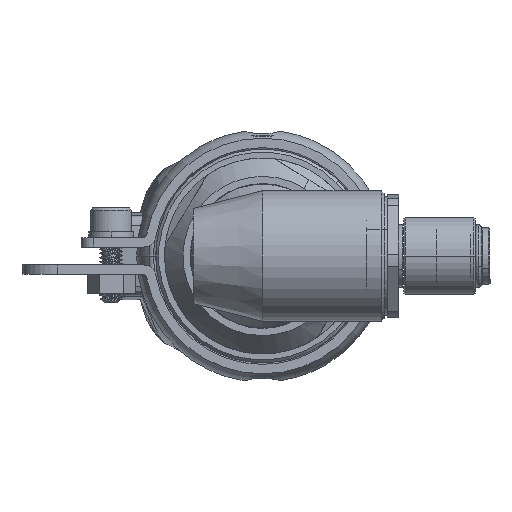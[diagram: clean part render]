
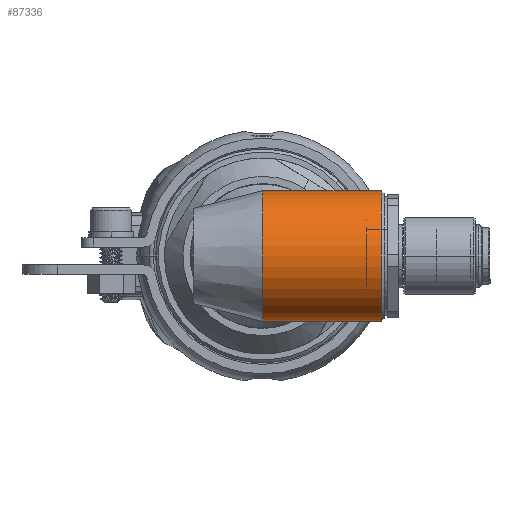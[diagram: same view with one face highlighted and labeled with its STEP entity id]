
A CAD part, left-side view. The second image highlights one B-rep face of the part: STEP entity #87336.
In plain terms, the highlighted cylindrical face has radius 11 mm (diameter 22 mm), a partial arc.
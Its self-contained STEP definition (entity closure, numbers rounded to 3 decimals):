
#3295 = DIRECTION ( 'NONE',  ( 0., 1., 0. ) ) ;
#6114 = LINE ( 'NONE', #68435, #65997 ) ;
#6454 = VECTOR ( 'NONE', #16531, 1000. ) ;
#7876 = EDGE_CURVE ( 'NONE', #50276, #44725, #6114, .T. ) ;
#10006 = AXIS2_PLACEMENT_3D ( 'NONE', #41742, #17790, #57568 ) ;
#16191 = VERTEX_POINT ( 'NONE', #51992 ) ;
#16531 = DIRECTION ( 'NONE',  ( 0., 1., 0. ) ) ;
#17790 = DIRECTION ( 'NONE',  ( 0., -1., 0. ) ) ;
#29601 = DIRECTION ( 'NONE',  ( 0., 1., 0. ) ) ;
#29750 = ORIENTED_EDGE ( 'NONE', *, *, #7876, .F. ) ;
#31602 = EDGE_CURVE ( 'NONE', #44725, #45672, #51015, .T. ) ;
#32339 = LINE ( 'NONE', #86540, #6454 ) ;
#32647 = ORIENTED_EDGE ( 'NONE', *, *, #78696, .F. ) ;
#41742 = CARTESIAN_POINT ( 'NONE',  ( -124.8, -20., 0. ) ) ;
#43112 = ORIENTED_EDGE ( 'NONE', *, *, #31602, .F. ) ;
#44725 = VERTEX_POINT ( 'NONE', #85624 ) ;
#45398 = FACE_OUTER_BOUND ( 'NONE', #58167, .T. ) ;
#45672 = VERTEX_POINT ( 'NONE', #90946 ) ;
#50276 = VERTEX_POINT ( 'NONE', #83863 ) ;
#51015 = CIRCLE ( 'NONE', #98437, 11. ) ;
#51992 = CARTESIAN_POINT ( 'NONE',  ( -124.8, -20., 11. ) ) ;
#52075 = CARTESIAN_POINT ( 'NONE',  ( -124.8, -20.5, 0. ) ) ;
#53069 = DIRECTION ( 'NONE',  ( 0., 0., -1. ) ) ;
#54013 = CIRCLE ( 'NONE', #10006, 11. ) ;
#57568 = DIRECTION ( 'NONE',  ( 0., 0., 1. ) ) ;
#58167 = EDGE_LOOP ( 'NONE', ( #100092, #43112, #29750, #32647 ) ) ;
#63341 = AXIS2_PLACEMENT_3D ( 'NONE', #52075, #85294, #53069 ) ;
#65997 = VECTOR ( 'NONE', #29601, 1000. ) ;
#67934 = CYLINDRICAL_SURFACE ( 'NONE', #63341, 11. ) ;
#68435 = CARTESIAN_POINT ( 'NONE',  ( -124.8, -20., -11. ) ) ;
#73788 = DIRECTION ( 'NONE',  ( 0., 0., -1. ) ) ;
#75481 = EDGE_CURVE ( 'NONE', #16191, #45672, #32339, .T. ) ;
#78696 = EDGE_CURVE ( 'NONE', #16191, #50276, #54013, .T. ) ;
#83863 = CARTESIAN_POINT ( 'NONE',  ( -124.8, -20., -11. ) ) ;
#85294 = DIRECTION ( 'NONE',  ( 0., -1., 0. ) ) ;
#85624 = CARTESIAN_POINT ( 'NONE',  ( -124.8, 0., -11. ) ) ;
#86540 = CARTESIAN_POINT ( 'NONE',  ( -124.8, -20., 11. ) ) ;
#87336 = ADVANCED_FACE ( 'NONE', ( #45398 ), #67934, .T. ) ;
#90155 = CARTESIAN_POINT ( 'NONE',  ( -124.8, 0., 0. ) ) ;
#90946 = CARTESIAN_POINT ( 'NONE',  ( -124.8, 0., 11. ) ) ;
#98437 = AXIS2_PLACEMENT_3D ( 'NONE', #90155, #3295, #73788 ) ;
#100092 = ORIENTED_EDGE ( 'NONE', *, *, #75481, .T. ) ;
